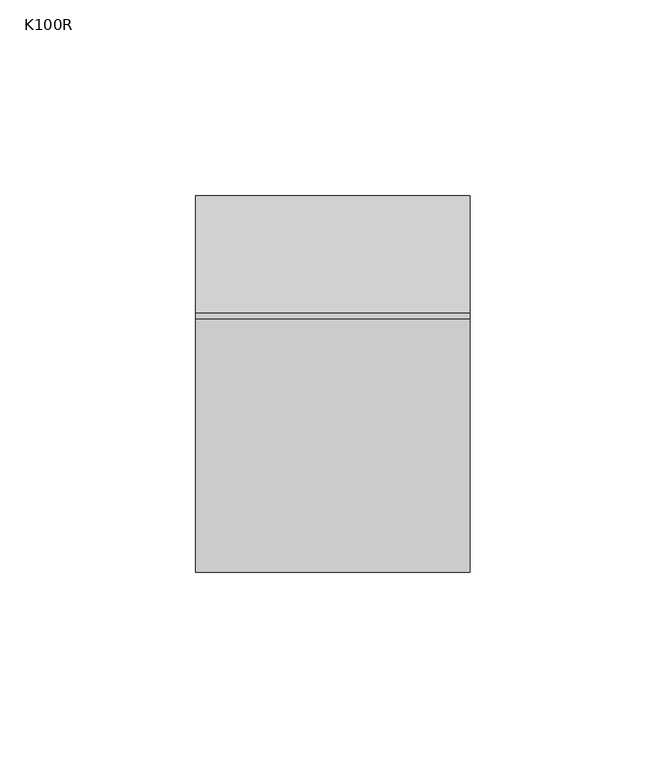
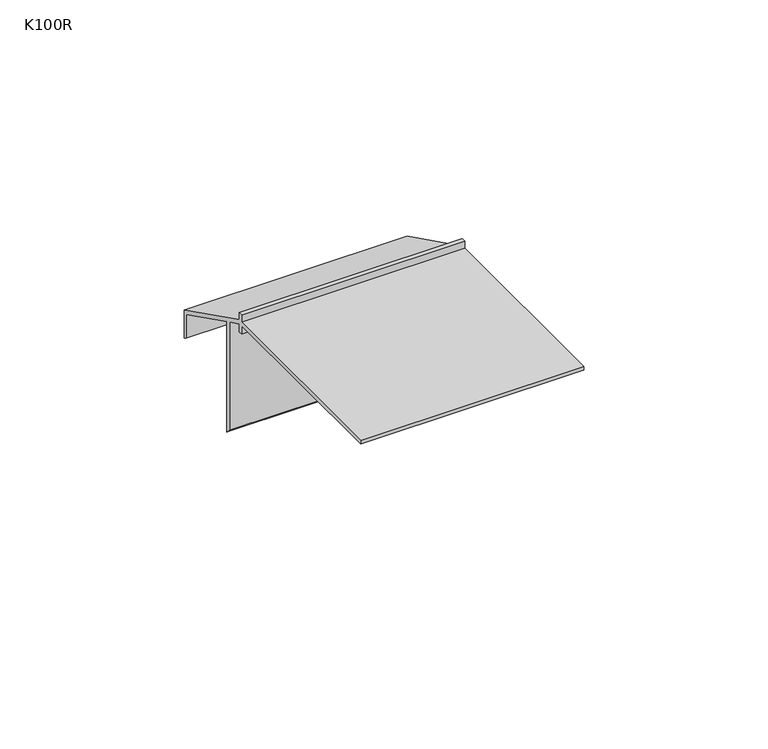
"""IFC4 building model written with IfcOpenShell, lengths in millimetres: proxy geometry, K100R Profil okapowy prosty z rynną : K100R."""

import ifcopenshell
import ifcopenshell.guid

model = None  # the IFC model being written
_history = None  # IfcOwnerHistory: only IFC2X3 demands one
_inside = {}  # id of a spatial element -> (the spatial element, [elements in it])
_under = {}  # id of a project, library or spatial element -> (it, [spatial elements below it])
_declared = {}  # id of a project -> (the project, [libraries it declares])
_typed = {}  # id of a type object -> (the type object, [elements of that type])
_made_of = {}  # id of a material, layer set ... -> (it, [elements and type objects made of it])


def new_model(schema):
    """Start an empty IFC model of exactly this schema.

    Asked for "IFC4X3", IfcOpenShell would pick the latest addendum, in which some entities
    have other attributes; the version numbers below select the first issue.
    IFC2X3 requires an IfcOwnerHistory on every rooted entity: one is made here for all.
    """
    global model, _history
    if schema == "IFC4X3":
        model = ifcopenshell.file(schema_version=(4, 3, 0, 0))
    else:
        model = ifcopenshell.file(schema=schema)
    _inside.clear()
    _under.clear()
    _declared.clear()
    _typed.clear()
    _made_of.clear()
    _history = None
    if model.schema == "IFC2X3":
        org = make("IfcOrganization", Name="unknown")
        user = make(
            "IfcPersonAndOrganization",
            ThePerson=make("IfcPerson", FamilyName="unknown"),
            TheOrganization=org,
        )
        app = make(
            "IfcApplication",
            ApplicationDeveloper=org,
            Version="unknown",
            ApplicationFullName="unknown",
            ApplicationIdentifier="unknown",
        )
        _history = make(
            "IfcOwnerHistory",
            OwningUser=user,
            OwningApplication=app,
            ChangeAction="ADDED",
            CreationDate=0,
        )
    return model


def make(cls, **values):
    """One entity of the class cls with the attributes given. An attribute that is None is left unset."""
    return model.create_entity(
        cls, **{name: value for name, value in values.items() if value is not None}
    )


def rooted(cls, **values):
    """An entity with a GlobalId (a new one), such as an element, a storey or a relation."""
    return make(cls, GlobalId=ifcopenshell.guid.new(), OwnerHistory=_history, **values)


def si_unit(unit_type, name, prefix=None):
    """IfcSIUnit, for example si_unit("LENGTHUNIT", "METRE", prefix="MILLI")."""
    return make("IfcSIUnit", UnitType=unit_type, Prefix=prefix, Name=name)


def assignment(units):
    """IfcUnitAssignment: the units of a project."""
    return None if units is None else make("IfcUnitAssignment", Units=units)


def point(xyz):
    """IfcCartesianPoint."""
    return None if xyz is None else make("IfcCartesianPoint", Coordinates=xyz)


def direction(xyz):
    """IfcDirection."""
    return None if xyz is None else make("IfcDirection", DirectionRatios=xyz)


def frame(location, z_axis=None, x_axis=None):
    """IfcAxis2Placement3D, a coordinate frame: its origin and axes. An axis left out is left unset."""
    return make(
        "IfcAxis2Placement3D",
        Location=point(location),
        Axis=direction(z_axis),
        RefDirection=direction(x_axis),
    )


def origin():
    """The frame at (0, 0, 0) with its axes left unset."""
    return frame((0.0, 0.0, 0.0))


def place(relative_to, where):
    """IfcLocalPlacement: puts the frame where relative to a parent placement (None: the world)."""
    return make(
        "IfcLocalPlacement", PlacementRelTo=relative_to, RelativePlacement=where
    )


def context(
    kind, dimensions, precision=None, world=None, true_north=None, identifier=None
):
    """IfcGeometricRepresentationContext, for example the 3D "Model" context."""
    return make(
        "IfcGeometricRepresentationContext",
        ContextIdentifier=identifier,
        ContextType=kind,
        CoordinateSpaceDimension=dimensions,
        Precision=precision,
        WorldCoordinateSystem=world,
        TrueNorth=true_north,
    )


def project(units=None, contexts=None):
    """IfcProject with its units and contexts."""
    return rooted(
        "IfcProject",
        Name="project",
        RepresentationContexts=contexts,
        UnitsInContext=assignment(units),
    )


def spatial(cls, under=None, at=None, **own):
    """A site, building, storey or space (cls), placed at a placement, below another one or the project."""
    s = rooted(cls, ObjectPlacement=at, **own)
    if under is not None:
        _under.setdefault(under.id(), (under, []))[1].append(s)
    return s


def polyline(points):
    """IfcPolyline through the points."""
    return make("IfcPolyline", Points=[point(p) for p in points])


def outline(outer, holes=None, kind="AREA"):
    """IfcArbitraryClosedProfileDef: a profile drawn as a closed curve; with holes, ...WithVoids."""
    if holes is None:
        return make("IfcArbitraryClosedProfileDef", ProfileType=kind, OuterCurve=outer)
    return make(
        "IfcArbitraryProfileDefWithVoids",
        ProfileType=kind,
        OuterCurve=outer,
        InnerCurves=holes,
    )


def extrude(swept, where, along, depth):
    """IfcExtrudedAreaSolid: the profile swept, set in the frame where, extruded along a direction by depth."""
    return make(
        "IfcExtrudedAreaSolid",
        SweptArea=swept,
        Position=where,
        ExtrudedDirection=direction(along),
        Depth=depth,
    )


def shape(context_of_items, identifier, shape_type, items):
    """IfcShapeRepresentation: the items that make up one representation, for example the "Body"."""
    return make(
        "IfcShapeRepresentation",
        ContextOfItems=context_of_items,
        RepresentationIdentifier=identifier,
        RepresentationType=shape_type,
        Items=items,
    )


def source(mapping_origin, context_of_items, identifier, shape_type, items):
    """IfcRepresentationMap: a shape defined once, which mapped items show again and again."""
    return make(
        "IfcRepresentationMap",
        MappingOrigin=mapping_origin,
        MappedRepresentation=shape(context_of_items, identifier, shape_type, items),
    )


def transform(
    local_origin,
    x_axis=None,
    y_axis=None,
    z_axis=None,
    scale=None,
    scale2=None,
    scale3=None,
    uniform=True,
):
    """IfcCartesianTransformationOperator3D, or its non-uniform kind. x_axis, y_axis, z_axis: its Axis1, 2, 3."""
    if uniform:
        return make(
            "IfcCartesianTransformationOperator3D",
            Axis1=direction(x_axis),
            Axis2=direction(y_axis),
            LocalOrigin=point(local_origin),
            Scale=scale,
            Axis3=direction(z_axis),
        )
    return make(
        "IfcCartesianTransformationOperator3DnonUniform",
        Axis1=direction(x_axis),
        Axis2=direction(y_axis),
        LocalOrigin=point(local_origin),
        Scale=scale,
        Axis3=direction(z_axis),
        Scale2=scale2,
        Scale3=scale3,
    )


def mapped(mapping_source, mapping_target):
    """IfcMappedItem: shows the shape of a source again, moved by a transform."""
    return make(
        "IfcMappedItem", MappingSource=mapping_source, MappingTarget=mapping_target
    )


def made_of(thing, what):
    """Note that an element or type object is made of a material, layer set ...; save() writes the relation."""
    if what is not None:
        _made_of.setdefault(what.id(), (what, []))[1].append(thing)
    return thing


def element(
    cls,
    number,
    at=None,
    inside=None,
    cuts=None,
    type_object=None,
    material=None,
    context=None,
    identifier="Body",
    shape_type=None,
    held_by="IfcProductDefinitionShape",
    body=None,
    shapes=None,
    **own,
):
    """One element of the class cls, such as IfcWall. Its Tag is "e" and its number.

    at: its placement. inside: the storey or other place that contains it. cuts: it is an
    opening in that element (IfcRelVoidsElement). A single representation is given by context,
    identifier, shape_type and body (its items); several are given by shapes. held_by: the class
    of the entity that holds the representations. save() writes the other relations.
    """
    e = rooted(cls, Tag="e%d" % number, ObjectPlacement=at, **own)
    if body is not None:
        shapes = [shape(context, identifier, shape_type, body)]
    if shapes is not None:
        e.Representation = make(held_by, Representations=shapes)
    if inside is not None:
        _inside.setdefault(inside.id(), (inside, []))[1].append(e)
    if cuts is not None:
        rooted(
            "IfcRelVoidsElement", RelatingBuildingElement=cuts, RelatedOpeningElement=e
        )
    if type_object is not None:
        _typed.setdefault(type_object.id(), (type_object, []))[1].append(e)
    return made_of(e, material)


def aggregate(whole, parts):
    """IfcRelAggregates: a whole, such as a stair, and the parts it consists of."""
    return rooted("IfcRelAggregates", RelatingObject=whole, RelatedObjects=parts)


def save(model, path):
    """Write the relations noted so far, then the file.

    IfcRelAggregates (storeys below a building ...), IfcRelContainedInSpatialStructure (elements
    in a storey), IfcRelDefinesByType, IfcRelAssociatesMaterial and IfcRelDeclares: one each for
    every whole, place, type object, material and project.
    """
    for whole, parts in _under.values():
        aggregate(whole, parts)
    for where, things in _inside.values():
        rooted(
            "IfcRelContainedInSpatialStructure",
            RelatedElements=things,
            RelatingStructure=where,
        )
    for kind, things in _typed.values():
        rooted("IfcRelDefinesByType", RelatedObjects=things, RelatingType=kind)
    for what, things in _made_of.values():
        rooted("IfcRelAssociatesMaterial", RelatedObjects=things, RelatingMaterial=what)
    for by, libraries in _declared.values():
        rooted("IfcRelDeclares", RelatingContext=by, RelatedDefinitions=libraries)
    model.write(path)


def k100r_47c554fd(model_context):
    return source(origin(), model_context, "Body", "SweptSolid", [
        extrude(outline(polyline([(31.2999993, -17.3500005), (31.2999993, -26.6), (30.0499993, -25.9199265), (30.0499993, -18.1225422), (7.9999999, -7.0975422), (7.9999999, -43.6535517), (6.5000001, -42.1535547), (6.5000001, -6.3475423), (1.1999998, -3.697542), (1.1999998, -6.2999991), (0.0, -6.2999991), (0.0, -3.6), (-64.7000037, -3.6), (-64.7000037, -2.3499993), (0.0, -2.3499993), (0.0, 0.0), (1.2999997, 0.0), (1.2999997, -2.3500002), (31.2999993, -17.3500005)])), frame((0.0, 0.0, 0.0), z_axis=(1.0, 0.0, 0.0), x_axis=(0.0, 1.0, 0.0)), (0.0, 0.0, 1.0), 70.0),
    ])


if __name__ == "__main__":
    model = new_model("IFC4")
    model_context = context("Model", 3, world=origin())
    ifc_project = project(units=[si_unit("LENGTHUNIT", "METRE", prefix="MILLI")], contexts=[model_context])
    site = spatial("IfcSite", under=ifc_project)
    building = spatial("IfcBuilding", under=site)
    placement = place(None, origin())
    k100r_shape = k100r_47c554fd(model_context)
    element("IfcBuildingElementProxy", 1, Name="K100R Profil okapowy prosty z rynną : K100R", ObjectType="K100R Profil okapowy prosty z rynną : K100R", at=placement, inside=building, context=model_context, shape_type="MappedRepresentation", body=[
        mapped(k100r_shape, transform((0.0, 0.0, 0.0), x_axis=(1.0, 0.0, 0.0), y_axis=(0.0, 1.0, 0.0), z_axis=(0.0, 0.0, 1.0))),
    ])
    save(model, "model.ifc")
